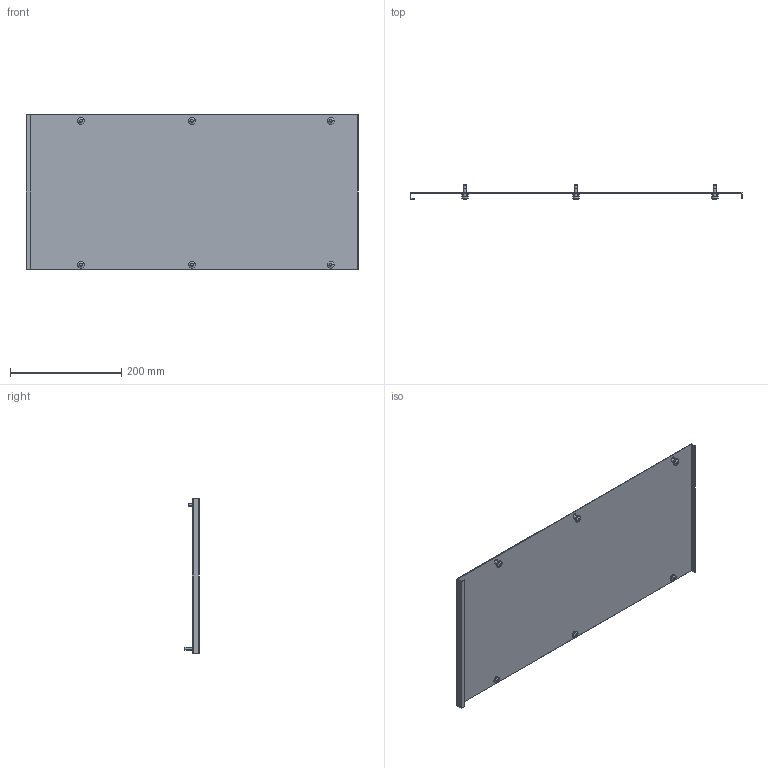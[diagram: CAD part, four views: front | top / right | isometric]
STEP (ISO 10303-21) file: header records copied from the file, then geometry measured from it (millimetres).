
FILE_DESCRIPTION (( 'STEP AP214' ), '1' );
FILE_NAME ('FO-00-PVS-060-040 Ïëàñòðîí ãëóõîé âíóòðåííèé 600õ400.STEP', '2025-09-30T07:42:07', ( '' ), ( '' ), 'SwSTEP 2.0', 'SolidWorks 2023', '' );
FILE_SCHEMA (( 'AUTOMOTIVE_DESIGN' ));
Length unit declared in the file: millimetre
Products named in the file (3): FO-00-PVS-060-040 Пластрон глухой внутренний 600х400; Винт M6x16 060-040 IEK
Assembly tree (3 placements, depth 2):
  FO-00-PVS-060-040 Пластрон глухой внутренний 600х400
    FO-00-PVS-060-040 Пластрон глухой внутренний 600х400
    Винт M6x16 060-040 IEK  x2
Bounding box: 598 x 27.28 x 279 mm (x, y, z)
Volume: 265410.8 mm3; surface area: 354474.7 mm2
Topology: 7 solids, 7 shells, 214 faces, 558 edges, 364 vertices
Faces by surface type: cylinder 132, plane 52, cone 18, bspline 12
Entity records: 4464 total; most frequent: CARTESIAN_POINT 1022, ORIENTED_EDGE 708, DIRECTION 692, EDGE_CURVE 354, AXIS2_PLACEMENT_3D 256, VERTEX_POINT 232, LINE 180, VECTOR 180
